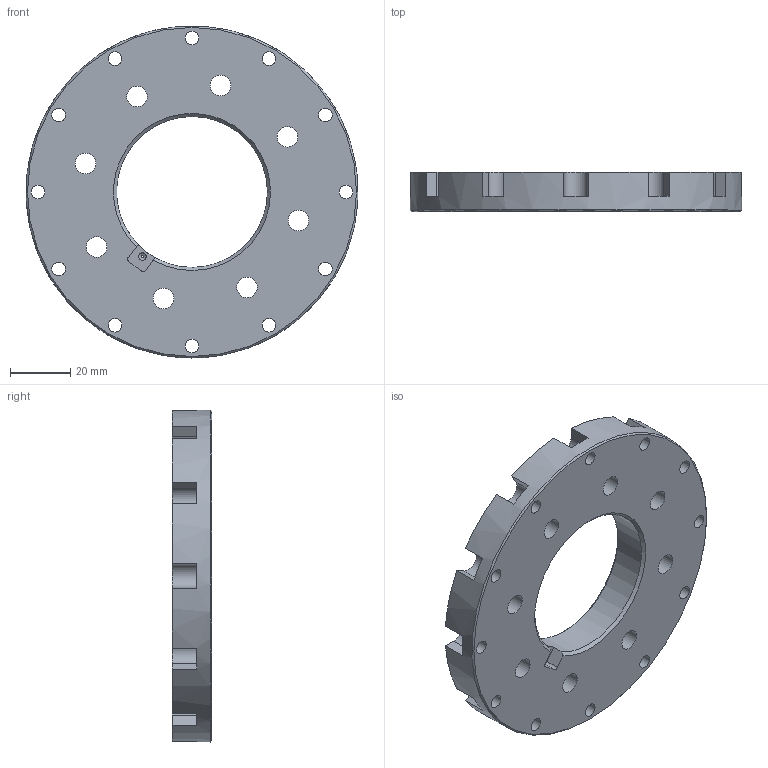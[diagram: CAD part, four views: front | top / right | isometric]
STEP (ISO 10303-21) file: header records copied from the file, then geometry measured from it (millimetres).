
FILE_DESCRIPTION (( 'STEP AP214' ), '1' );
FILE_NAME ('2-130-004 机器人三轴外壳转接.STEP', '2026-05-21T03:50:48', ( 'Windows User' ), ( 'P R C' ), 'SwSTEP 2.0', 'SolidWorks 2021', '' );
FILE_SCHEMA (( 'AUTOMOTIVE_DESIGN' ));
Length unit declared in the file: millimetre
Products named in the file (1): 2-130-004 机器人三轴外壳转接
Bounding box: 109.97 x 13 x 109.98 mm (x, y, z)
Volume: 87385.4 mm3; surface area: 24736.1 mm2
Topology: 1 solids, 1 shells, 83 faces, 241 edges, 160 vertices
Faces by surface type: plane 42, cylinder 37, cone 4
Full cylindrical faces by diameter (mm): 2.5 x1, 4.5 x12, 6.8 x8, 50 x1, 110 x1
Entity records: 2847 total; most frequent: DIRECTION 480, CARTESIAN_POINT 459, ORIENTED_EDGE 424, EDGE_CURVE 212, AXIS2_PLACEMENT_3D 186, VERTEX_POINT 157, EDGE_LOOP 153, VECTOR 108
